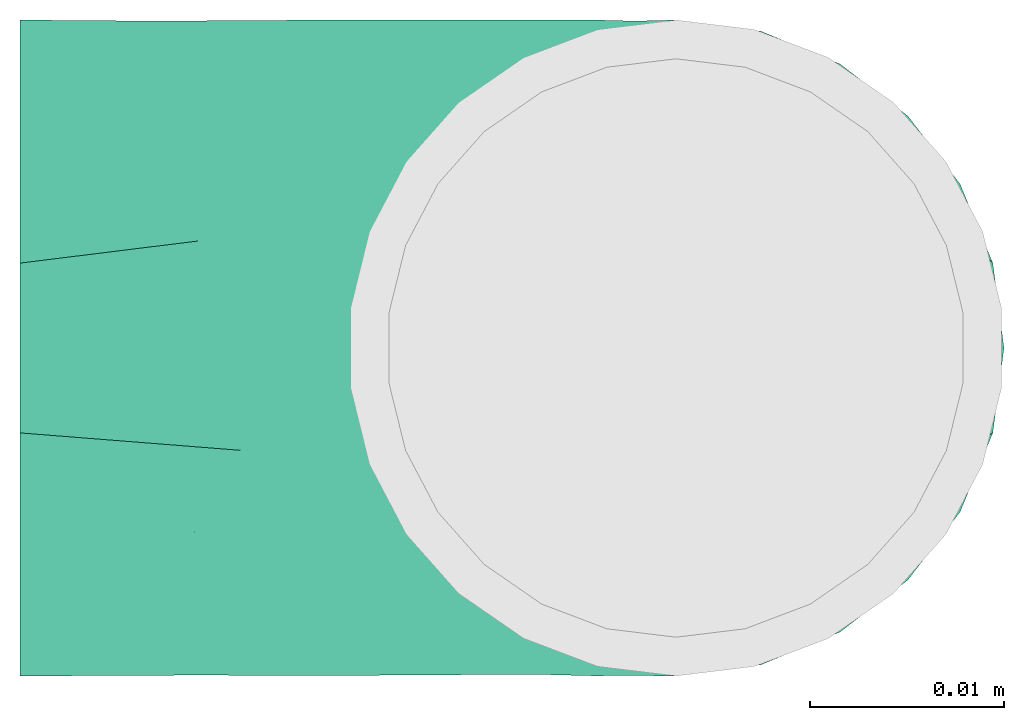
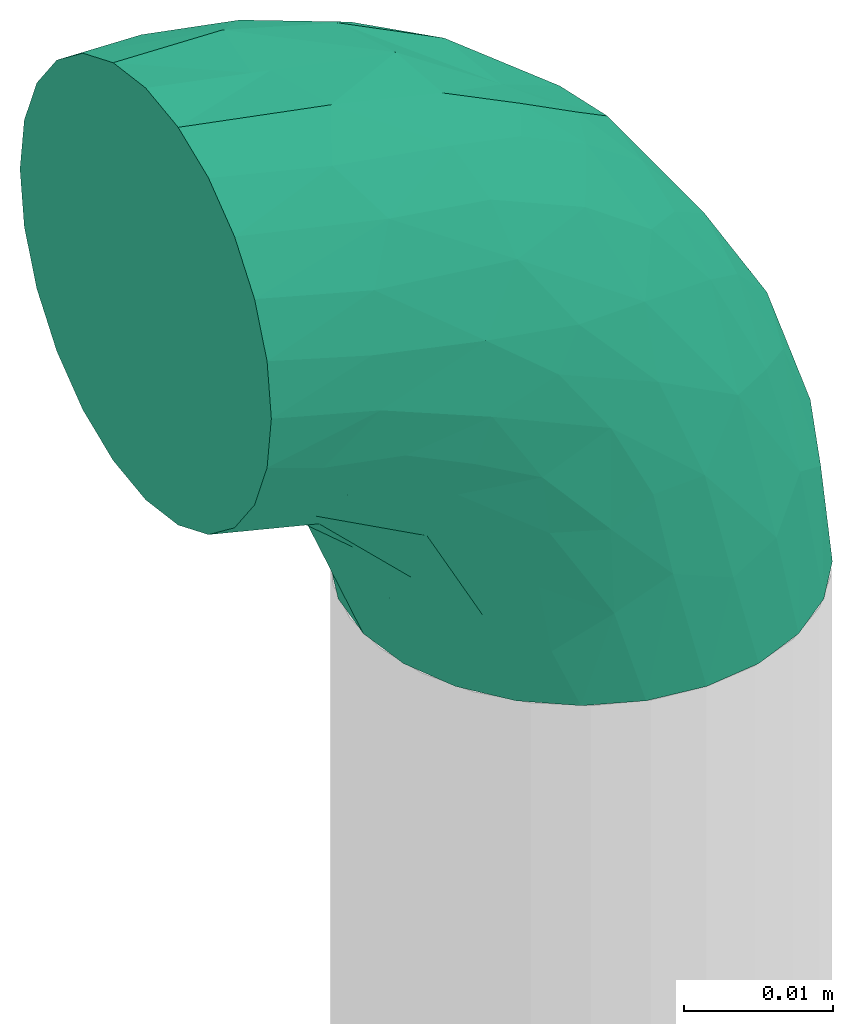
# One storey, part 2 of 2: 1 flow fitting.
"""IFC2X3 building model written with IfcOpenShell, lengths in millimetres."""

from ifc_helpers import new_model, entity, si_unit, converted_unit, derived_unit, direction, frame, origin_with_axes, place, context, subcontext, project, spatial, open_shell, surface_model, source, transform, mapped, type_object, element, save


model = new_model("IFC2X3")

# Units and contexts
model_context = context("Model", 3, precision=0.01, world=frame((0.0, 4.29681676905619e-09, 0.0)), true_north=direction((4.01073788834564e-13, 1.0)))
plan_context = context("Plan", 3, precision=0.01, world=frame((0.0, 4.29681676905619e-09, 0.0)), true_north=direction((4.01073788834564e-13, 1.0)))
body_context = subcontext(model_context, "Body", "Model", "MODEL_VIEW")
ifc_project = project(units=[converted_unit("PLANEANGLEUNIT", "DEGREE", entity("IfcPositiveLengthMeasure", 0.0174532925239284), si_unit("PLANEANGLEUNIT", "RADIAN"), dimensions=[0, 0, 0, 0, 0, 0, 0]), si_unit("AREAUNIT", "SQUARE_METRE"), si_unit("LENGTHUNIT", "METRE", prefix="MILLI"), si_unit("MASSUNIT", "GRAM", prefix="KILO"), si_unit("POWERUNIT", "WATT"), si_unit("PRESSUREUNIT", "PASCAL"), si_unit("FORCEUNIT", "NEWTON", prefix="KILO"), si_unit("ELECTRICVOLTAGEUNIT", "VOLT"), si_unit("ELECTRICCURRENTUNIT", "AMPERE"), si_unit("THERMODYNAMICTEMPERATUREUNIT", "DEGREE_CELSIUS"), si_unit("TIMEUNIT", "SECOND"), si_unit("VOLUMEUNIT", "CUBIC_METRE"), derived_unit("LINEARVELOCITYUNIT", [(si_unit("LENGTHUNIT", "METRE"), 1), (si_unit("TIMEUNIT", "SECOND"), -1)]), derived_unit("VOLUMETRICFLOWRATEUNIT", [(si_unit("VOLUMEUNIT", "CUBIC_METRE"), 1), (si_unit("TIMEUNIT", "SECOND"), -1)]), derived_unit("THERMALTRANSMITTANCEUNIT", [(si_unit("POWERUNIT", "WATT"), 1), (si_unit("THERMODYNAMICTEMPERATUREUNIT", "KELVIN"), -1), (si_unit("AREAUNIT", "SQUARE_METRE"), -1)]), derived_unit("SOUNDPRESSUREUNIT", [(si_unit("PRESSUREUNIT", "PASCAL"), 1)])], contexts=[model_context, plan_context])

# Site, building, storey
site_placement = place(None, frame((0.0, -4.29681676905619e-09, 0.0), z_axis=(0.0, 0.0, 1.0), x_axis=(1.0, 0.0, 0.0)))
site = spatial("IfcSite", under=ifc_project, at=site_placement, CompositionType="ELEMENT")
building_placement = place(site_placement, frame((0.0, 4.29681676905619e-09, 0.0), z_axis=(0.0, 0.0, 1.0), x_axis=(1.0, 0.0, 0.0)))
building = spatial("IfcBuilding", under=site, at=building_placement, Name="mc-building", CompositionType="ELEMENT")
storey_placement = place(building_placement, frame((0.0, 0.0, 210200.0), z_axis=(0.0, 0.0, 1.0), x_axis=(1.0, 0.0, 0.0)))
storey = spatial("IfcBuildingStorey", under=building, at=storey_placement, Name="Nivå F -0,7", CompositionType="ELEMENT", Elevation=210200.0)

# Flow fitting
pipe_fitting_type = type_object("IfcPipeFittingType", Name="magi_pipe_fe_elbow_short_001", PredefinedType="BEND")
shared_shape = source(origin_with_axes(), body_context, "Body", "SurfaceModel", [
    surface_model("IfcShellBasedSurfaceModel", [(-33.8, 4.37404, -16.32415), (-33.8, 0.0, -16.9), (-33.8, 11.9501, -11.9501), (-33.8, 8.45, -14.63583), (-33.8, 16.32415, -4.37404), (-33.8, 14.63583, -8.45), (-33.8, -14.63583, -8.45), (-33.8, -16.32415, -4.37404), (-33.8, -8.45, 14.63583), (-33.8, -11.9501, -11.9501), (-33.8, -8.45, -14.63583), (-33.8, -4.37404, -16.32415), (-33.8, -16.9, 0.0), (-33.8, -16.32415, 4.37404), (-33.8, 11.9501, 11.9501), (-33.8, 14.63583, 8.45), (-33.8, 16.32415, 4.37404), (-33.8, 4.37404, 16.32415), (-33.8, 8.45, 14.63583), (-33.8, -14.63583, 8.45), (-33.8, -11.9501, 11.9501), (-33.8, -4.37404, 16.32415), (-33.8, 0.0, 16.9), (-33.8, 16.9, 0.0), (-11.9501, 33.8, -11.9501), (0.0, 33.8, -16.9), (-4.37404, 33.8, -16.32415), (-8.45, 33.8, -14.63583), (-14.63583, 33.8, -8.45), (-16.32415, 33.8, -4.37404), (14.63583, 33.8, -8.45), (8.45, 33.8, 14.63583), (16.32415, 33.8, -4.37404), (8.45, 33.8, -14.63583), (11.9501, 33.8, -11.9501), (4.37404, 33.8, -16.32415), (16.32415, 33.8, 4.37404), (16.9, 33.8, 0.0), (-11.9501, 33.8, 11.9501), (-16.32415, 33.8, 4.37404), (-14.63583, 33.8, 8.45), (-8.45, 33.8, 14.63583), (-4.37404, 33.8, 16.32415), (11.9501, 33.8, 11.9501), (14.63583, 33.8, 8.45), (0.0, 33.8, 16.9), (4.37404, 33.8, 16.32415), (-16.9, 33.8, 0.0), (-24.79389, -13.12945, 9.48721), (-22.19287, -9.75018, 12.59315), (-24.09897, -14.97035, 0.0), (-14.93934, -10.76256, 8.5297), (-22.46095, -14.75051, 5.27077), (14.75051, 22.46094, 5.27077), (11.9251, 13.23888, 4.33236), (13.04069, 14.39795, 0.0), (7.71387, 13.68847, 11.55891), (9.75018, 22.19287, 12.59315), (4.10169, 13.0571, 14.04018), (-24.84007, -6.39063, 15.2048), (-25.81779, -2.23879, 16.61097), (-23.66549, 2.59054, 16.87119), (-26.50418, 14.06512, 11.08152), (-24.21253, 17.66365, 7.72657), (-29.58514, 15.86957, 7.00283), (-6.17382, -7.5455, 0.0), (-13.23888, -11.9251, 4.33236), (-14.39795, -13.04069, 0.0), (-17.81434, 18.87373, 11.97104), (-6.30846, 29.15138, 15.82987), (-2.31622, 25.28002, 16.85849), (-29.23923, 10.23435, 13.77053), (-1.45439, -2.85688, 7.61475), (-0.28326, 0.34872, 10.09509), (-5.74484, -4.04709, 10.4122), (-4.41137, 11.31918, 16.59407), (-8.39727, 3.10034, 15.7812), (-1.72649, 9.1306, 15.53089), (-17.39909, 24.75344, 7.64977), (-26.19233, 20.0512, 0.0), (-28.14518, 17.29657, 4.25857), (-26.05147, 6.6281, 15.96447), (-5.87354, 16.61944, 16.86968), (-12.51807, 12.51807, 16.48937), (-10.06312, 7.38516, 16.81295), (-3.01882, 3.01882, 13.81718), (-13.0571, -4.10169, 14.04018), (-16.82553, -0.15166, 16.38038), (10.76256, 14.93934, 8.5297), (13.12945, 24.79389, 9.48721), (6.39063, 24.84007, 15.2048), (2.23879, 25.81779, 16.61097), (-13.68847, -7.71387, 11.55891), (14.97035, 24.09897, 0.0), (-7.30894, 22.89991, 16.09489), (-10.67958, 26.17414, 14.008), (-12.78295, 18.26924, 15.06066), (-13.88562, 22.45231, 12.93244), (-18.04944, 15.16501, 14.04434), (-23.11658, 20.08178, 4.02986), (-21.84989, 21.84989, 0.0), (-18.55817, 25.48277, 3.93065), (-13.95142, 26.94732, 11.03289), (-18.57098, 7.23906, 16.59756), (-16.58335, 4.14122, 16.89279), (-17.96666, 11.46709, 15.63151), (-9.84453, 17.54304, 16.18938), (0.15166, 16.82553, 16.38038), (-23.27207, 11.47201, 14.23154), (3.84842, 5.86994, 10.70473), (-8.0212, -7.54413, 7.93275), (1.00345, -2.19508, 4.57414), (5.13203, 3.01004, 5.90201), (5.24161, 1.7543, 2.53265), (8.70457, 7.04947, 3.99182), (-20.0512, 26.19233, 0.0), (8.4852, 8.76699, 7.09296), (-4.55488, -6.72064, 4.90681), (2.05031, -2.05031, 0.0), (-26.75399, 2.1369, -16.845), (-14.61995, 24.73803, -11.27736), (-28.45274, -13.45335, -9.81895), (-26.00469, 6.63555, -15.96645), (-23.06726, 20.04573, -4.26202), (-13.80647, -4.26506, -14.17873), (-14.67501, -0.21081, -16.07388), (-6.7902, -0.2828, -13.8478), (-24.53586, 11.08096, -14.13417), (-26.72048, 14.00837, -11.05776), (10.0967, 24.44989, -12.75976), (5.83237, 21.40218, -15.03047), (6.66249, 28.54238, -15.38093), (-20.38182, 15.48705, -12.74596), (-15.65186, 19.64213, -13.01327), (-12.03528, 20.66498, -14.67665), (-15.61907, 15.61906, -14.83879), (-25.56551, -15.26206, 0.0), (-24.65452, -15.12934, -5.50955), (12.53268, 21.23441, -9.15363), (13.45335, 28.45274, -9.81895), (15.12934, 24.65452, -5.50955), (-7.35442, -8.31014, -5.65563), (-15.67504, -12.54494, -5.54878), (-24.44989, -10.0967, -12.75976), (0.16522, 0.41303, -9.71728), (-5.70658, -5.33066, -8.89288), (-5.13869, -2.37198, -11.53565), (-21.23441, -12.53268, -9.15363), (0.71146, 7.93863, -14.09382), (0.21081, 14.67501, -16.07388), (3.49291, 14.42772, -14.76381), (-24.89911, -2.13088, -16.591), (-28.54238, -6.66249, -15.38093), (-18.44386, -7.71663, -13.26957), (2.13088, 24.89911, -16.591), (-28.64342, 17.44413, -2.89318), (1.70017, -1.28722, -5.09504), (-16.57067, 26.81947, -7.36596), (-17.69055, 27.4263, -3.76405), (-12.89279, -9.7522, -8.66343), (-5.96611, 5.96611, -15.95814), (-20.53709, 20.09345, -8.28985), (-2.1369, 26.75399, -16.845), (-6.89872, 24.58781, -16.02578), (-10.60739, 26.53157, -13.98044), (-21.40218, -5.83237, -15.03047), (2.93192, 5.89627, -11.55917), (6.89393, 12.61842, -11.82233), (5.58056, 5.95325, -8.79455), (-3.99512, 18.61798, -16.89635), (-9.1383, 9.86148, -16.89041), (-9.99983, 16.02119, -16.39699), (-16.68576, 9.78031, -16.34199), (-27.01915, 16.61158, -7.12979), (15.26206, 25.56551, 0.0), (-18.61798, 3.99512, -16.89635), (-19.37495, 27.82495, 0.0), (9.7522, 12.89279, -8.66343), (-12.61842, -6.89393, -11.82233), (8.31014, 7.35442, -5.65563), (-18.84705, 19.14018, -10.96545), (12.54494, 15.67504, -5.54878), (7.5455, 6.17382, 0.0)], [open_shell([[[0, 1, 2]], [[3, 0, 2]], [[4, 5, 2]], [[6, 2, 1]], [[2, 7, 8]], [[9, 6, 10]], [[1, 11, 10]], [[10, 6, 1]], [[2, 6, 7]], [[12, 13, 7]], [[4, 2, 14]], [[4, 15, 16]], [[4, 14, 15]], [[17, 18, 14]], [[14, 2, 8]], [[17, 14, 8]], [[19, 20, 13]], [[20, 7, 13]], [[21, 22, 8]], [[20, 8, 7]], [[8, 22, 17]], [[4, 16, 23]], [[24, 25, 26]], [[24, 26, 27]], [[24, 28, 29]], [[25, 24, 30]], [[31, 32, 24]], [[33, 30, 34]], [[33, 35, 25]], [[25, 30, 33]], [[32, 30, 24]], [[32, 36, 37]], [[38, 24, 29]], [[39, 40, 29]], [[40, 38, 29]], [[38, 41, 42]], [[38, 31, 24]], [[31, 38, 42]], [[36, 43, 44]], [[36, 32, 43]], [[31, 45, 46]], [[32, 31, 43]], [[42, 45, 31]], [[39, 29, 47]], [[20, 48, 49]], [[13, 12, 50]], [[51, 48, 52]], [[53, 54, 55]], [[48, 20, 19]], [[13, 52, 19]], [[56, 57, 58]], [[49, 8, 20]], [[49, 59, 8]], [[22, 60, 61]], [[62, 63, 64]], [[65, 66, 67]], [[57, 43, 31]], [[62, 68, 63]], [[42, 69, 70]], [[18, 71, 14]], [[21, 60, 22]], [[72, 73, 74]], [[75, 76, 77]], [[14, 62, 15]], [[40, 39, 78]], [[79, 23, 80]], [[64, 16, 15]], [[22, 61, 17]], [[17, 81, 18]], [[82, 83, 84]], [[74, 85, 86]], [[59, 86, 87]], [[88, 89, 57]], [[90, 31, 46]], [[44, 53, 36]], [[46, 45, 91]], [[54, 53, 88]], [[44, 89, 53]], [[92, 86, 49]], [[89, 44, 43]], [[8, 59, 21]], [[53, 55, 93]], [[93, 36, 53]], [[66, 52, 67]], [[94, 82, 70]], [[95, 96, 94]], [[97, 98, 96]], [[79, 99, 100]], [[41, 38, 95]], [[101, 100, 99]], [[68, 78, 63]], [[42, 41, 69]], [[23, 16, 80]], [[95, 94, 69]], [[78, 101, 99]], [[38, 102, 95]], [[70, 45, 42]], [[97, 95, 102]], [[13, 50, 52]], [[90, 57, 31]], [[57, 90, 58]], [[81, 17, 61]], [[103, 104, 84]], [[105, 81, 103]], [[38, 40, 102]], [[106, 96, 83]], [[94, 106, 82]], [[91, 70, 107]], [[71, 62, 14]], [[62, 108, 98]], [[86, 59, 49]], [[67, 52, 50]], [[60, 59, 87]], [[92, 49, 51]], [[86, 85, 76]], [[91, 90, 46]], [[37, 36, 93]], [[107, 77, 58]], [[107, 58, 90]], [[58, 85, 109]], [[110, 74, 92]], [[72, 74, 110]], [[66, 51, 52]], [[72, 111, 112]], [[113, 114, 112]], [[56, 88, 57]], [[52, 48, 19]], [[49, 48, 51]], [[57, 89, 43]], [[53, 89, 88]], [[103, 81, 61]], [[71, 81, 108]], [[16, 64, 80]], [[63, 78, 99]], [[47, 115, 101]], [[101, 115, 100]], [[40, 78, 102]], [[68, 102, 78]], [[97, 96, 95]], [[105, 98, 108]], [[103, 84, 83]], [[107, 70, 82]], [[76, 84, 87]], [[82, 84, 75]], [[70, 91, 45]], [[90, 91, 107]], [[59, 60, 21]], [[61, 60, 87]], [[73, 85, 74]], [[109, 112, 116]], [[103, 61, 104]], [[105, 103, 83]], [[96, 105, 83]], [[81, 105, 108]], [[96, 98, 105]], [[62, 98, 68]], [[61, 87, 104]], [[87, 84, 104]], [[86, 76, 87]], [[77, 76, 85]], [[58, 77, 85]], [[75, 77, 107]], [[82, 75, 107]], [[76, 75, 84]], [[81, 71, 18]], [[62, 71, 108]], [[95, 69, 41]], [[70, 69, 94]], [[62, 64, 15]], [[80, 63, 99]], [[63, 80, 64]], [[80, 99, 79]], [[66, 65, 117]], [[110, 66, 117]], [[112, 114, 116]], [[118, 117, 65]], [[110, 92, 51]], [[112, 111, 113]], [[74, 86, 92]], [[58, 109, 56]], [[116, 56, 109]], [[66, 110, 51]], [[72, 110, 117]], [[111, 72, 117]], [[73, 112, 109]], [[117, 118, 111]], [[113, 111, 118]], [[116, 54, 88]], [[54, 116, 114]], [[116, 88, 56]], [[112, 73, 72]], [[85, 73, 109]], [[78, 39, 101]], [[47, 101, 39]], [[102, 68, 97]], [[97, 68, 98]], [[82, 106, 83]], [[94, 96, 106]], [[0, 119, 1]], [[28, 24, 120]], [[9, 121, 6]], [[3, 122, 0]], [[100, 123, 79]], [[124, 125, 126]], [[127, 2, 128]], [[129, 130, 131]], [[127, 128, 132]], [[133, 134, 135]], [[127, 3, 2]], [[67, 136, 137]], [[138, 139, 140]], [[137, 7, 6]], [[141, 65, 142]], [[143, 9, 10]], [[144, 145, 146]], [[142, 137, 147]], [[148, 149, 150]], [[151, 11, 1]], [[10, 152, 143]], [[147, 143, 153]], [[152, 10, 11]], [[35, 154, 25]], [[23, 79, 155]], [[145, 156, 141]], [[157, 158, 29]], [[142, 159, 141]], [[160, 149, 148]], [[29, 28, 157]], [[120, 161, 157]], [[33, 34, 129]], [[25, 162, 26]], [[26, 162, 163]], [[139, 34, 30]], [[24, 27, 164]], [[123, 158, 161]], [[154, 35, 131]], [[152, 151, 165]], [[122, 3, 127]], [[166, 167, 168]], [[169, 154, 149]], [[26, 163, 27]], [[131, 35, 33]], [[139, 129, 34]], [[165, 151, 125]], [[132, 133, 135]], [[2, 5, 128]], [[167, 130, 129]], [[30, 32, 140]], [[169, 170, 171]], [[172, 122, 127]], [[155, 173, 4]], [[164, 27, 163]], [[171, 163, 169]], [[133, 164, 134]], [[121, 137, 6]], [[136, 12, 7]], [[32, 37, 174]], [[167, 129, 138]], [[149, 154, 130]], [[162, 154, 169]], [[150, 167, 148]], [[149, 160, 170]], [[165, 124, 153]], [[121, 143, 147]], [[119, 151, 1]], [[175, 170, 125]], [[175, 125, 151]], [[125, 160, 126]], [[159, 142, 147]], [[136, 7, 137]], [[32, 174, 140]], [[55, 140, 174]], [[173, 128, 5]], [[127, 132, 135]], [[172, 127, 135]], [[119, 122, 175]], [[120, 157, 28]], [[158, 100, 176]], [[163, 171, 134]], [[120, 24, 164]], [[158, 47, 29]], [[79, 123, 155]], [[123, 161, 173]], [[158, 123, 100]], [[177, 168, 167]], [[126, 160, 148]], [[144, 168, 156]], [[145, 141, 159]], [[126, 148, 166]], [[126, 178, 124]], [[128, 173, 161]], [[5, 4, 173]], [[156, 65, 141]], [[67, 137, 142]], [[122, 119, 0]], [[151, 119, 175]], [[154, 162, 25]], [[163, 162, 169]], [[169, 149, 170]], [[172, 135, 171]], [[125, 170, 160]], [[172, 170, 175]], [[170, 172, 171]], [[122, 172, 175]], [[147, 178, 159]], [[126, 146, 178]], [[178, 145, 159]], [[156, 145, 144]], [[168, 177, 179]], [[167, 138, 177]], [[156, 168, 179]], [[168, 144, 166]], [[166, 144, 146]], [[148, 167, 166]], [[161, 180, 128]], [[180, 120, 133]], [[178, 146, 145]], [[166, 146, 126]], [[180, 133, 132]], [[164, 133, 120]], [[163, 134, 164]], [[171, 135, 134]], [[128, 180, 132]], [[120, 180, 161]], [[158, 157, 161]], [[47, 158, 176]], [[173, 155, 123]], [[23, 155, 4]], [[129, 131, 33]], [[154, 131, 130]], [[140, 139, 30]], [[129, 139, 138]], [[151, 152, 11]], [[143, 152, 165]], [[143, 121, 9]], [[137, 121, 147]], [[149, 130, 150]], [[67, 142, 65]], [[167, 150, 130]], [[156, 118, 65]], [[153, 124, 178]], [[125, 124, 165]], [[147, 153, 178]], [[165, 153, 143]], [[138, 181, 177]], [[140, 181, 138]], [[177, 181, 179]], [[140, 55, 181]], [[182, 55, 54]], [[118, 182, 113]], [[114, 182, 54]], [[182, 114, 113]], [[181, 55, 182]], [[181, 182, 179]], [[156, 182, 118]], [[182, 156, 179]]])]),
])
flow_fitting_placement = place(storey_placement, frame((610704.75803, 691395.18624, 3222.5), z_axis=(0.0, -1.0, 0.0), x_axis=(0.0, 0.0, 1.0)))
element("IfcFlowFitting", 1, at=flow_fitting_placement, inside=storey, type_object=pipe_fitting_type, Name="magi_pipe_fe_elbow_short_001", context=body_context, shape_type="MappedRepresentation", body=[
    mapped(shared_shape, transform((0.0, 0.0, 0.0), scale=1.0)),
])

save(model, "model.ifc")
